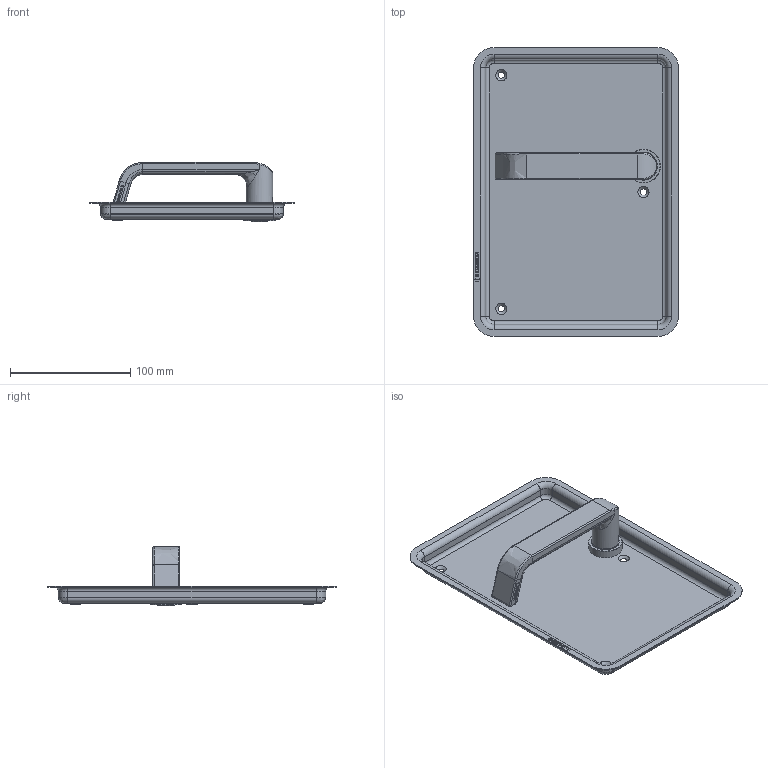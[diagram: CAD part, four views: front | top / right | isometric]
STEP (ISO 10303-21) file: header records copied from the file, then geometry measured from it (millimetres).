
FILE_DESCRIPTION(/* description */ (''),/* implementation_level */ '2;1');
FILE_NAME(/* name */ 'C:\ADSK_DMS_WS\Designs\Vorschläge\Loc Schalen\Muschel Serie 3\S3.13.D2Links\Heusser-Muschel S3.13.D2.0L.stp',/* time_stamp */ '2020-11-21T08:34:34+01:00',/* author */ ('gm'),/* organization */ (''),/* preprocessor_version */ 'ST-DEVELOPER v16.5',/* originating_system */ 'Autodesk Inventor 2017',/* authorisation */ '');
FILE_SCHEMA (('AUTOMOTIVE_DESIGN { 1 0 10303 214 3 1 1 }'));
Length unit declared in the file: millimetre
Products named in the file (1): S3.13.D1.L
Bounding box: 170 x 240 x 49 mm (x, y, z)
Volume: 90202.3 mm3; surface area: 110527.4 mm2
Topology: 1 solids, 2 shells, 609 faces, 1595 edges, 1032 vertices
Faces by surface type: plane 294, bspline 212, cylinder 70, torus 17, cone 16
Full cylindrical faces by diameter (mm): 1.7 x2, 6 x1, 16 x3, 18 x1, 19 x1, 19.1 x1, 22 x1, 23 x1, 23.2 x1, 24 x1, 25 x1, 26 x1, 28 x1
Entity records: 20830 total; most frequent: CARTESIAN_POINT 6389, ORIENTED_EDGE 3106, DIRECTION 2311, EDGE_CURVE 1553, VERTEX_POINT 1026, LINE 955, VECTOR 955, EDGE_LOOP 701
